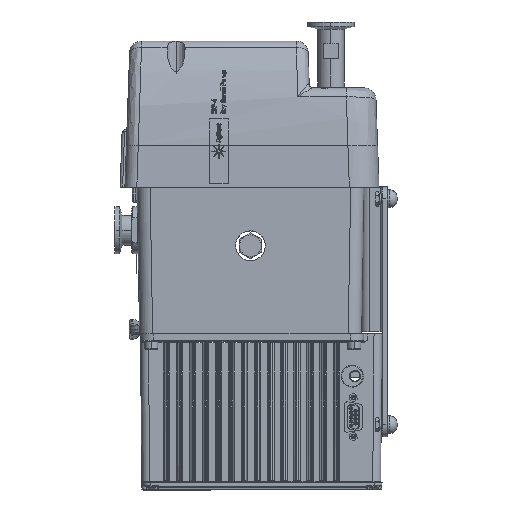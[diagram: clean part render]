
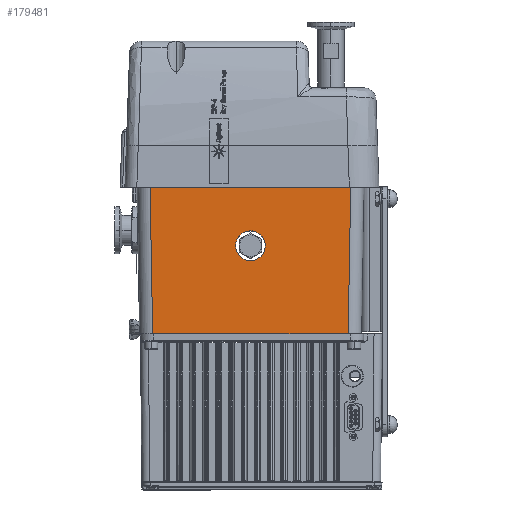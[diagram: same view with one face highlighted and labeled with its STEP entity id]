
A CAD part, left-side view. The second image highlights one B-rep face of the part: STEP entity #179481.
In plain terms, the highlighted planar face has unit normal (-1, 0, -0.018).
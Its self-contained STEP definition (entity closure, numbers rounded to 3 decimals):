
#14329 = ORIENTED_EDGE ( 'NONE', *, *, #99629, .T. ) ;
#14647 = CARTESIAN_POINT ( 'NONE',  ( -62.144, 62.653, -94.668 ) ) ;
#17959 = VERTEX_POINT ( 'NONE', #14647 ) ;
#24802 = FACE_OUTER_BOUND ( 'NONE', #98253, .T. ) ;
#27014 = EDGE_CURVE ( 'NONE', #17959, #175801, #73000, .T. ) ;
#28307 = CARTESIAN_POINT ( 'NONE',  ( -63.129, -9.525, -38.227 ) ) ;
#28837 = LINE ( 'NONE', #85750, #62857 ) ;
#29089 = CARTESIAN_POINT ( 'NONE',  ( -62.796, 9.525, -57.277 ) ) ;
#30082 = DIRECTION ( 'NONE',  ( 0., -1., 0. ) ) ;
#32160 = DIRECTION ( 'NONE',  ( 0., 1., 0. ) ) ;
#32562 = VECTOR ( 'NONE', #137698, 1000. ) ;
#54479 = CARTESIAN_POINT ( 'NONE',  ( -63.461, 9.525, -19.177 ) ) ;
#59638 =( BOUNDED_CURVE ( )  B_SPLINE_CURVE ( 3, ( #143854, #29089, #170970, #156055 ),
 .UNSPECIFIED., .F., .F. ) 
 B_SPLINE_CURVE_WITH_KNOTS ( ( 4, 4 ),
 ( 4.712, 7.854 ),
 .UNSPECIFIED. ) 
 CURVE ( )  GEOMETRIC_REPRESENTATION_ITEM ( )  RATIONAL_B_SPLINE_CURVE ( ( 1., 0.333, 0.333, 1. ) ) 
 REPRESENTATION_ITEM ( '' )  );
#62774 = ORIENTED_EDGE ( 'NONE', *, *, #82927, .F. ) ;
#62857 = VECTOR ( 'NONE', #144541, 1000. ) ;
#63650 = AXIS2_PLACEMENT_3D ( 'NONE', #82657, #89084, #32160 ) ;
#66523 = VERTEX_POINT ( 'NONE', #175063 ) ;
#69306 = VERTEX_POINT ( 'NONE', #130946 ) ;
#71333 = VECTOR ( 'NONE', #126609, 1000. ) ;
#73000 = LINE ( 'NONE', #88823, #100660 ) ;
#79835 = CARTESIAN_POINT ( 'NONE',  ( -63.79, 0., -0.381 ) ) ;
#80761 = LINE ( 'NONE', #79835, #32562 ) ;
#80805 = VERTEX_POINT ( 'NONE', #138828 ) ;
#82657 = CARTESIAN_POINT ( 'NONE',  ( -63.818, 0., 1.219 ) ) ;
#82927 = EDGE_CURVE ( 'NONE', #117501, #69306, #59638, .T. ) ;
#85750 = CARTESIAN_POINT ( 'NONE',  ( -63.798, 64.307, 0.097 ) ) ;
#88699 = ORIENTED_EDGE ( 'NONE', *, *, #138379, .F. ) ;
#88823 = CARTESIAN_POINT ( 'NONE',  ( -62.144, 0., -94.668 ) ) ;
#89084 = DIRECTION ( 'NONE',  ( -1., 0., -0.017 ) ) ;
#98253 = EDGE_LOOP ( 'NONE', ( #118178, #131529, #14329, #108380 ) ) ;
#99629 = EDGE_CURVE ( 'NONE', #175801, #66523, #151885, .T. ) ;
#100660 = VECTOR ( 'NONE', #30082, 1000. ) ;
#100711 = EDGE_LOOP ( 'NONE', ( #88699, #62774 ) ) ;
#103340 = CARTESIAN_POINT ( 'NONE',  ( -63.129, 9.525, -38.227 ) ) ;
#108380 = ORIENTED_EDGE ( 'NONE', *, *, #129441, .T. ) ;
#117501 = VERTEX_POINT ( 'NONE', #103340 ) ;
#118178 = ORIENTED_EDGE ( 'NONE', *, *, #152745, .T. ) ;
#126322 = CARTESIAN_POINT ( 'NONE',  ( -63.129, 9.525, -38.227 ) ) ;
#126609 = DIRECTION ( 'NONE',  ( -0.017, -0.017, 1. ) ) ;
#129441 = EDGE_CURVE ( 'NONE', #66523, #80805, #80761, .T. ) ;
#130946 = CARTESIAN_POINT ( 'NONE',  ( -63.129, -9.525, -38.227 ) ) ;
#131529 = ORIENTED_EDGE ( 'NONE', *, *, #27014, .T. ) ;
#137698 = DIRECTION ( 'NONE',  ( 0., 1., 0. ) ) ;
#138379 = EDGE_CURVE ( 'NONE', #69306, #117501, #155568, .T. ) ;
#138668 = PLANE ( 'NONE',  #63650 ) ;
#138828 = CARTESIAN_POINT ( 'NONE',  ( -63.79, 64.299, -0.381 ) ) ;
#142162 = CARTESIAN_POINT ( 'NONE',  ( -63.461, -9.525, -19.177 ) ) ;
#143854 = CARTESIAN_POINT ( 'NONE',  ( -63.129, 9.525, -38.227 ) ) ;
#144541 = DIRECTION ( 'NONE',  ( 0.017, -0.017, -1. ) ) ;
#151885 = LINE ( 'NONE', #154640, #71333 ) ;
#152745 = EDGE_CURVE ( 'NONE', #80805, #17959, #28837, .T. ) ;
#153598 = FACE_BOUND ( 'NONE', #100711, .T. ) ;
#154640 = CARTESIAN_POINT ( 'NONE',  ( -63.798, -64.307, 0.097 ) ) ;
#155568 =( BOUNDED_CURVE ( )  B_SPLINE_CURVE ( 3, ( #28307, #142162, #54479, #126322 ),
 .UNSPECIFIED., .F., .F. ) 
 B_SPLINE_CURVE_WITH_KNOTS ( ( 4, 4 ),
 ( 1.571, 4.712 ),
 .UNSPECIFIED. ) 
 CURVE ( )  GEOMETRIC_REPRESENTATION_ITEM ( )  RATIONAL_B_SPLINE_CURVE ( ( 1., 0.333, 0.333, 1. ) ) 
 REPRESENTATION_ITEM ( '' )  );
#156055 = CARTESIAN_POINT ( 'NONE',  ( -63.129, -9.525, -38.227 ) ) ;
#163832 = CARTESIAN_POINT ( 'NONE',  ( -62.144, -62.653, -94.668 ) ) ;
#170970 = CARTESIAN_POINT ( 'NONE',  ( -62.796, -9.525, -57.277 ) ) ;
#175063 = CARTESIAN_POINT ( 'NONE',  ( -63.79, -64.299, -0.381 ) ) ;
#175801 = VERTEX_POINT ( 'NONE', #163832 ) ;
#179481 = ADVANCED_FACE ( 'NONE', ( #24802, #153598 ), #138668, .T. ) ;
